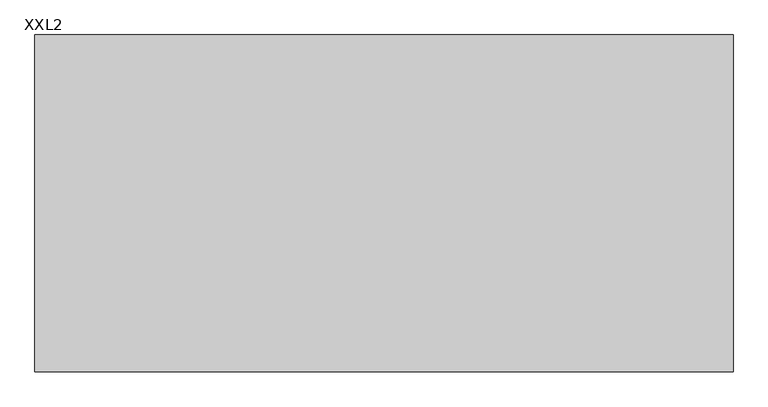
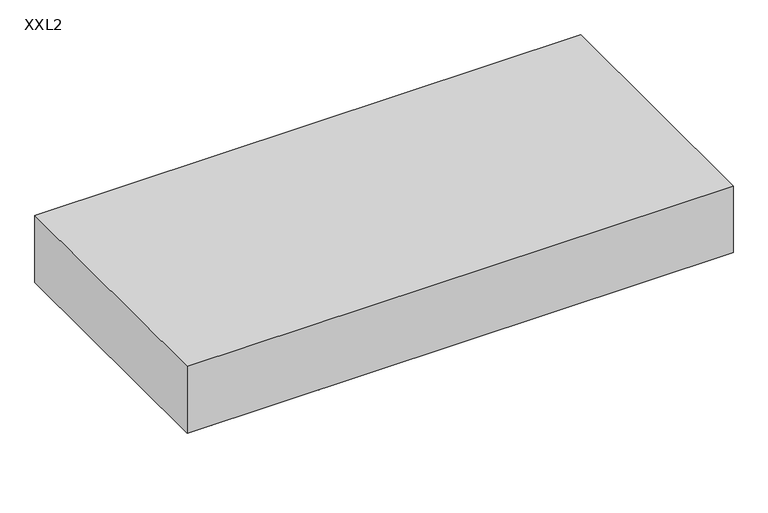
"""IFC4 building model written with IfcOpenShell, lengths in millimetres: proxy geometry, OWA Corpus : XXL2."""

from ifc_helpers import new_model, si_unit, point, frame, frame_2d, origin, place, context, project, spatial, polyline, circle_curve, trimmed, segment, composite_curve, outline, extrude, faceted_brep, source, transform, mapped, element, save
from ifc_brep_helpers import plane_surface, cylinder_surface, revolved_surface, advanced_brep


def xxl2_2bb92154(model_context):
    return source(origin(), model_context, "Body", "SolidModel", [
        advanced_brep(
        [(-891.0, -305.0, 0.0), (-883.2593825, -305.0, 0.0), (-898.7406175, -305.0, 0.0), (-883.2593825, -305.0, 15.0), (-898.7406175, -305.0, 15.0), (-884.1843825, -305.0, 15.0), (-897.8156175, -305.0, 15.0), (-884.1843825, -305.0, 19.0), (-897.8156175, -305.0, 19.0), (-888.9343825, -305.0, 19.0), (-893.0656175, -305.0, 19.0), (-888.9343825, -305.0, 22.546183), (-893.0656175, -305.0, 22.546183), (-891.0, -305.0, 22.546183)],
        [
            (0, 1),
            (1, 2, circle_curve(frame((-891.0, -305.0, 0.0), z_axis=(0.0, 0.0, -1.0), x_axis=(-1.0, 0.0, 0.0)), 7.7406175)),
            (2, 0),
            (2, 1, circle_curve(frame((-891.0, -305.0, 0.0), z_axis=(0.0, 0.0, -1.0), x_axis=(-1.0, 0.0, 0.0)), 7.7406175)),
            (1, 3),
            (3, 4, circle_curve(frame((-891.0, -305.0, 15.0), z_axis=(0.0, 0.0, -1.0), x_axis=(-1.0, 0.0, 0.0)), 7.7406175)),
            (4, 2),
            (4, 3, circle_curve(frame((-891.0, -305.0, 15.0), z_axis=(0.0, 0.0, -1.0), x_axis=(-1.0, 0.0, 0.0)), 7.7406175)),
            (3, 5),
            (5, 6, circle_curve(frame((-891.0, -305.0, 15.0), z_axis=(0.0, 0.0, -1.0), x_axis=(-1.0, 0.0, 0.0)), 6.8156175)),
            (6, 4),
            (6, 5, circle_curve(frame((-891.0, -305.0, 15.0), z_axis=(0.0, 0.0, -1.0), x_axis=(-1.0, 0.0, 0.0)), 6.8156175)),
            (5, 7),
            (7, 8, circle_curve(frame((-891.0, -305.0, 19.0), z_axis=(0.0, 0.0, -1.0), x_axis=(-1.0, 0.0, 0.0)), 6.8156175)),
            (8, 6),
            (8, 7, circle_curve(frame((-891.0, -305.0, 19.0), z_axis=(0.0, 0.0, -1.0), x_axis=(-1.0, 0.0, 0.0)), 6.8156175)),
            (7, 9),
            (9, 10, circle_curve(frame((-891.0, -305.0, 19.0), z_axis=(0.0, 0.0, -1.0), x_axis=(-1.0, 0.0, 0.0)), 2.0656175)),
            (10, 8),
            (10, 9, circle_curve(frame((-891.0, -305.0, 19.0), z_axis=(0.0, 0.0, -1.0), x_axis=(-1.0, 0.0, 0.0)), 2.0656175)),
            (9, 11),
            (11, 12, circle_curve(frame((-891.0, -305.0, 22.546183), z_axis=(0.0, 0.0, -1.0), x_axis=(-1.0, 0.0, 0.0)), 2.0656175)),
            (12, 10),
            (12, 11, circle_curve(frame((-891.0, -305.0, 22.546183), z_axis=(0.0, 0.0, -1.0), x_axis=(-1.0, 0.0, 0.0)), 2.0656175)),
            (11, 13),
            (13, 12),
        ],
        [
            plane_surface(frame((-891.0, -305.0, 0.0), z_axis=(0.0, 0.0, -1.0), x_axis=(-1.0, 0.0, 0.0))),
            cylinder_surface(frame((-891.0, -305.0, -10.0), z_axis=(0.0, 0.0, -1.0), x_axis=(-1.0, 0.0, 0.0)), 7.7406175),
            plane_surface(frame((-891.0, -305.0, 15.0), z_axis=(0.0, 0.0, 1.0), x_axis=(-1.0, 0.0, 0.0))),
            cylinder_surface(frame((-891.0, -305.0, -10.0), z_axis=(0.0, 0.0, -1.0), x_axis=(-1.0, 0.0, 0.0)), 6.8156175),
            plane_surface(frame((-891.0, -305.0, 19.0), z_axis=(0.0, 0.0, 1.0), x_axis=(-1.0, 0.0, 0.0))),
            cylinder_surface(frame((-891.0, -305.0, -10.0), z_axis=(0.0, 0.0, -1.0), x_axis=(-1.0, 0.0, 0.0)), 2.0656175),
            plane_surface(frame((-891.0, -305.0, 22.546183), z_axis=(0.0, 0.0, 1.0), x_axis=(-1.0, 0.0, 0.0))),
        ],
        [
            (0, [[1, 2, 3]]),
            (0, [[-3, 4, -1]]),
            (1, [[5, 6, 7, -2]]),
            (1, [[-7, 8, -5, -4]]),
            (2, [[9, 10, 11, -6]]),
            (2, [[-11, 12, -9, -8]]),
            (3, [[13, 14, 15, -10]]),
            (3, [[-15, 16, -13, -12]]),
            (4, [[17, 18, 19, -14]]),
            (4, [[-19, 20, -17, -16]]),
            (5, [[21, 22, 23, -18]]),
            (5, [[-23, 24, -21, -20]]),
            (6, [[25, 26, -22]]),
            (6, [[-26, -25, -24]]),
        ],
    ),
        advanced_brep(
        [(-888.7615389, -305.0, 428.8211737), (-888.6339453, -305.0, 432.8711737), (-893.3660547, -305.0, 432.8711737), (-893.2384611, -305.0, 428.8211737), (-886.1339453, -305.0, 432.8711737), (-895.8660547, -305.0, 432.8711737), (-886.1339453, -305.0, 458.1211737), (-895.8660547, -305.0, 458.1211737), (-875.1339453, -305.0, 458.1211737), (-906.8660547, -305.0, 458.1211737), (-875.1339453, -305.0, 460.0), (-906.8660547, -305.0, 460.0), (-891.0, -305.0, 460.0), (-891.0, -305.0, 428.8211737)],
        [
            (0, 1),
            (1, 2, circle_curve(frame((-891.0, -305.0, 432.8711737), z_axis=(0.0, 0.0, -1.0), x_axis=(-1.0, 0.0, 0.0)), 2.3660547)),
            (2, 3),
            (3, 0, circle_curve(frame((-891.0, -305.0, 428.8211737), z_axis=(0.0, 0.0, 1.0), x_axis=(-1.0, 0.0, 0.0)), 2.2384611)),
            (2, 1, circle_curve(frame((-891.0, -305.0, 432.8711737), z_axis=(0.0, 0.0, -1.0), x_axis=(-1.0, 0.0, 0.0)), 2.3660547)),
            (0, 3, circle_curve(frame((-891.0, -305.0, 428.8211737), z_axis=(0.0, 0.0, 1.0), x_axis=(-1.0, 0.0, 0.0)), 2.2384611)),
            (1, 4),
            (4, 5, circle_curve(frame((-891.0, -305.0, 432.8711737), z_axis=(0.0, 0.0, -1.0), x_axis=(-1.0, 0.0, 0.0)), 4.8660547)),
            (5, 2),
            (5, 4, circle_curve(frame((-891.0, -305.0, 432.8711737), z_axis=(0.0, 0.0, -1.0), x_axis=(-1.0, 0.0, 0.0)), 4.8660547)),
            (4, 6),
            (6, 7, circle_curve(frame((-891.0, -305.0, 458.1211737), z_axis=(0.0, 0.0, -1.0), x_axis=(-1.0, 0.0, 0.0)), 4.8660547)),
            (7, 5),
            (7, 6, circle_curve(frame((-891.0, -305.0, 458.1211737), z_axis=(0.0, 0.0, -1.0), x_axis=(-1.0, 0.0, 0.0)), 4.8660547)),
            (6, 8),
            (8, 9, circle_curve(frame((-891.0, -305.0, 458.1211737), z_axis=(0.0, 0.0, -1.0), x_axis=(-1.0, 0.0, 0.0)), 15.8660547)),
            (9, 7),
            (9, 8, circle_curve(frame((-891.0, -305.0, 458.1211737), z_axis=(0.0, 0.0, -1.0), x_axis=(-1.0, 0.0, 0.0)), 15.8660547)),
            (8, 10),
            (10, 11, circle_curve(frame((-891.0, -305.0, 460.0), z_axis=(0.0, 0.0, -1.0), x_axis=(-1.0, 0.0, 0.0)), 15.8660547)),
            (11, 9),
            (11, 10, circle_curve(frame((-891.0, -305.0, 460.0), z_axis=(0.0, 0.0, -1.0), x_axis=(-1.0, 0.0, 0.0)), 15.8660547)),
            (10, 12),
            (12, 11),
            (13, 0),
            (3, 13),
        ],
        [
            revolved_surface(polyline([(-893.3660547, -305.0, 432.8711737), (-893.2384611, -305.0, 428.8211737)]), (-891.0, -305.0, 461.8401096), (0.0, 0.0, -1.0)),
            plane_surface(frame((-891.0, -305.0, 432.8711737), z_axis=(0.0, 0.0, -1.0), x_axis=(-1.0, 0.0, 0.0))),
            cylinder_surface(frame((-891.0, -305.0, 461.8401096), z_axis=(0.0, 0.0, -1.0), x_axis=(-1.0, 0.0, 0.0)), 4.8660547),
            plane_surface(frame((-891.0, -305.0, 458.1211737), z_axis=(0.0, 0.0, -1.0), x_axis=(-1.0, 0.0, 0.0))),
            cylinder_surface(frame((-891.0, -305.0, 461.8401096), z_axis=(0.0, 0.0, -1.0), x_axis=(-1.0, 0.0, 0.0)), 15.8660547),
            plane_surface(frame((-891.0, -305.0, 460.0), z_axis=(0.0, 0.0, 1.0), x_axis=(-1.0, 0.0, 0.0))),
            plane_surface(frame((-891.0, -305.0, 428.8211737), z_axis=(0.0, 0.0, -1.0), x_axis=(-1.0, 0.0, 0.0))),
        ],
        [
            (0, [[1, 2, 3, 4]]),
            (0, [[-3, 5, -1, 6]]),
            (1, [[7, 8, 9, -2]]),
            (1, [[-9, 10, -7, -5]]),
            (2, [[11, 12, 13, -8]]),
            (2, [[-13, 14, -11, -10]]),
            (3, [[15, 16, 17, -12]]),
            (3, [[-17, 18, -15, -14]]),
            (4, [[19, 20, 21, -16]]),
            (4, [[-21, 22, -19, -18]]),
            (5, [[23, 24, -20]]),
            (5, [[-24, -23, -22]]),
            (6, [[25, -4, 26]]),
            (6, [[-26, -6, -25]]),
        ],
    ),
        extrude(outline(composite_curve([segment(trimmed(circle_curve(frame_2d((-891.0, -305.0)), 1.0), [point((-892.0, -305.0))], [point((-890.0, -305.0))], False, "CARTESIAN"), True, "CONTINUOUS"), segment(trimmed(circle_curve(frame_2d((-891.0, -305.0)), 1.0), [point((-890.0, -305.0))], [point((-892.0, -305.0))], False, "CARTESIAN"), True, "CONTINUOUS")], self_intersect=False)), frame((0.0, 0.0, 22.546183), z_axis=(0.0, 0.0, 1.0), x_axis=(1.0, 0.0, 0.0)), (0.0, 0.0, 1.0), 406.2749908),
        advanced_brep(
        [(-891.0, 305.0, 0.0), (-898.7406175, 305.0, 0.0), (-883.2593825, 305.0, 0.0), (-898.7406175, 305.0, 15.0), (-883.2593825, 305.0, 15.0), (-897.8156175, 305.0, 15.0), (-884.1843825, 305.0, 15.0), (-897.8156175, 305.0, 19.0), (-884.1843825, 305.0, 19.0), (-893.0656175, 305.0, 19.0), (-888.9343825, 305.0, 19.0), (-893.0656175, 305.0, 22.546183), (-888.9343825, 305.0, 22.546183), (-891.0, 305.0, 22.546183)],
        [
            (0, 1),
            (1, 2, circle_curve(frame((-891.0, 305.0, 0.0), z_axis=(0.0, 0.0, -1.0), x_axis=(-1.0, 0.0, 0.0)), 7.7406175)),
            (2, 0),
            (2, 1, circle_curve(frame((-891.0, 305.0, 0.0), z_axis=(0.0, 0.0, -1.0), x_axis=(-1.0, 0.0, 0.0)), 7.7406175)),
            (1, 3),
            (3, 4, circle_curve(frame((-891.0, 305.0, 15.0), z_axis=(0.0, 0.0, -1.0), x_axis=(-1.0, 0.0, 0.0)), 7.7406175)),
            (4, 2),
            (4, 3, circle_curve(frame((-891.0, 305.0, 15.0), z_axis=(0.0, 0.0, -1.0), x_axis=(-1.0, 0.0, 0.0)), 7.7406175)),
            (3, 5),
            (5, 6, circle_curve(frame((-891.0, 305.0, 15.0), z_axis=(0.0, 0.0, -1.0), x_axis=(-1.0, 0.0, 0.0)), 6.8156175)),
            (6, 4),
            (6, 5, circle_curve(frame((-891.0, 305.0, 15.0), z_axis=(0.0, 0.0, -1.0), x_axis=(-1.0, 0.0, 0.0)), 6.8156175)),
            (5, 7),
            (7, 8, circle_curve(frame((-891.0, 305.0, 19.0), z_axis=(0.0, 0.0, -1.0), x_axis=(-1.0, 0.0, 0.0)), 6.8156175)),
            (8, 6),
            (8, 7, circle_curve(frame((-891.0, 305.0, 19.0), z_axis=(0.0, 0.0, -1.0), x_axis=(-1.0, 0.0, 0.0)), 6.8156175)),
            (7, 9),
            (9, 10, circle_curve(frame((-891.0, 305.0, 19.0), z_axis=(0.0, 0.0, -1.0), x_axis=(-1.0, 0.0, 0.0)), 2.0656175)),
            (10, 8),
            (10, 9, circle_curve(frame((-891.0, 305.0, 19.0), z_axis=(0.0, 0.0, -1.0), x_axis=(-1.0, 0.0, 0.0)), 2.0656175)),
            (9, 11),
            (11, 12, circle_curve(frame((-891.0, 305.0, 22.546183), z_axis=(0.0, 0.0, -1.0), x_axis=(-1.0, 0.0, 0.0)), 2.0656175)),
            (12, 10),
            (12, 11, circle_curve(frame((-891.0, 305.0, 22.546183), z_axis=(0.0, 0.0, -1.0), x_axis=(-1.0, 0.0, 0.0)), 2.0656175)),
            (11, 13),
            (13, 12),
        ],
        [
            plane_surface(frame((-891.0, 305.0, 0.0), z_axis=(0.0, 0.0, -1.0), x_axis=(-1.0, 0.0, 0.0))),
            cylinder_surface(frame((-891.0, 305.0, -10.0), z_axis=(0.0, 0.0, -1.0), x_axis=(-1.0, 0.0, 0.0)), 7.7406175),
            plane_surface(frame((-891.0, 305.0, 15.0), z_axis=(0.0, 0.0, 1.0), x_axis=(-1.0, 0.0, 0.0))),
            cylinder_surface(frame((-891.0, 305.0, -10.0), z_axis=(0.0, 0.0, -1.0), x_axis=(-1.0, 0.0, 0.0)), 6.8156175),
            plane_surface(frame((-891.0, 305.0, 19.0), z_axis=(0.0, 0.0, 1.0), x_axis=(-1.0, 0.0, 0.0))),
            cylinder_surface(frame((-891.0, 305.0, -10.0), z_axis=(0.0, 0.0, -1.0), x_axis=(-1.0, 0.0, 0.0)), 2.0656175),
            plane_surface(frame((-891.0, 305.0, 22.546183), z_axis=(0.0, 0.0, 1.0), x_axis=(-1.0, 0.0, 0.0))),
        ],
        [
            (0, [[1, 2, 3]]),
            (0, [[-3, 4, -1]]),
            (1, [[-2, 5, 6, 7]]),
            (1, [[-4, -7, 8, -5]]),
            (2, [[-6, 9, 10, 11]]),
            (2, [[-8, -11, 12, -9]]),
            (3, [[-10, 13, 14, 15]]),
            (3, [[-12, -15, 16, -13]]),
            (4, [[-14, 17, 18, 19]]),
            (4, [[-16, -19, 20, -17]]),
            (5, [[-18, 21, 22, 23]]),
            (5, [[-20, -23, 24, -21]]),
            (6, [[-22, 25, 26]]),
            (6, [[-24, -26, -25]]),
        ],
    ),
        advanced_brep(
        [(-888.7615389, 305.0, 428.8211737), (-893.2384611, 305.0, 428.8211737), (-893.3660547, 305.0, 432.8711737), (-888.6339453, 305.0, 432.8711737), (-895.8660547, 305.0, 432.8711737), (-886.1339453, 305.0, 432.8711737), (-895.8660547, 305.0, 458.1211737), (-886.1339453, 305.0, 458.1211737), (-906.8660547, 305.0, 458.1211737), (-875.1339453, 305.0, 458.1211737), (-906.8660547, 305.0, 460.0), (-875.1339453, 305.0, 460.0), (-891.0, 305.0, 460.0), (-891.0, 305.0, 428.8211737)],
        [
            (0, 1, circle_curve(frame((-891.0, 305.0, 428.8211737), z_axis=(0.0, 0.0, 1.0), x_axis=(-1.0, 0.0, 0.0)), 2.2384611)),
            (1, 2),
            (2, 3, circle_curve(frame((-891.0, 305.0, 432.8711737), z_axis=(0.0, 0.0, -1.0), x_axis=(-1.0, 0.0, 0.0)), 2.3660547)),
            (3, 0),
            (1, 0, circle_curve(frame((-891.0, 305.0, 428.8211737), z_axis=(0.0, 0.0, 1.0), x_axis=(-1.0, 0.0, 0.0)), 2.2384611)),
            (3, 2, circle_curve(frame((-891.0, 305.0, 432.8711737), z_axis=(0.0, 0.0, -1.0), x_axis=(-1.0, 0.0, 0.0)), 2.3660547)),
            (2, 4),
            (4, 5, circle_curve(frame((-891.0, 305.0, 432.8711737), z_axis=(0.0, 0.0, -1.0), x_axis=(-1.0, 0.0, 0.0)), 4.8660547)),
            (5, 3),
            (5, 4, circle_curve(frame((-891.0, 305.0, 432.8711737), z_axis=(0.0, 0.0, -1.0), x_axis=(-1.0, 0.0, 0.0)), 4.8660547)),
            (4, 6),
            (6, 7, circle_curve(frame((-891.0, 305.0, 458.1211737), z_axis=(0.0, 0.0, -1.0), x_axis=(-1.0, 0.0, 0.0)), 4.8660547)),
            (7, 5),
            (7, 6, circle_curve(frame((-891.0, 305.0, 458.1211737), z_axis=(0.0, 0.0, -1.0), x_axis=(-1.0, 0.0, 0.0)), 4.8660547)),
            (6, 8),
            (8, 9, circle_curve(frame((-891.0, 305.0, 458.1211737), z_axis=(0.0, 0.0, -1.0), x_axis=(-1.0, 0.0, 0.0)), 15.8660547)),
            (9, 7),
            (9, 8, circle_curve(frame((-891.0, 305.0, 458.1211737), z_axis=(0.0, 0.0, -1.0), x_axis=(-1.0, 0.0, 0.0)), 15.8660547)),
            (8, 10),
            (10, 11, circle_curve(frame((-891.0, 305.0, 460.0), z_axis=(0.0, 0.0, -1.0), x_axis=(-1.0, 0.0, 0.0)), 15.8660547)),
            (11, 9),
            (11, 10, circle_curve(frame((-891.0, 305.0, 460.0), z_axis=(0.0, 0.0, -1.0), x_axis=(-1.0, 0.0, 0.0)), 15.8660547)),
            (10, 12),
            (12, 11),
            (13, 1),
            (0, 13),
        ],
        [
            revolved_surface(polyline([(-893.3660547, 305.0, 432.8711737), (-893.2384611, 305.0, 428.8211737)]), (-891.0, 305.0, 461.8401096), (0.0, 0.0, -1.0)),
            plane_surface(frame((-891.0, 305.0, 432.8711737), z_axis=(0.0, 0.0, -1.0), x_axis=(-1.0, 0.0, 0.0))),
            cylinder_surface(frame((-891.0, 305.0, 461.8401096), z_axis=(0.0, 0.0, -1.0), x_axis=(-1.0, 0.0, 0.0)), 4.8660547),
            plane_surface(frame((-891.0, 305.0, 458.1211737), z_axis=(0.0, 0.0, -1.0), x_axis=(-1.0, 0.0, 0.0))),
            cylinder_surface(frame((-891.0, 305.0, 461.8401096), z_axis=(0.0, 0.0, -1.0), x_axis=(-1.0, 0.0, 0.0)), 15.8660547),
            plane_surface(frame((-891.0, 305.0, 460.0), z_axis=(0.0, 0.0, 1.0), x_axis=(-1.0, 0.0, 0.0))),
            plane_surface(frame((-891.0, 305.0, 428.8211737), z_axis=(0.0, 0.0, -1.0), x_axis=(-1.0, 0.0, 0.0))),
        ],
        [
            (0, [[1, 2, 3, 4]]),
            (0, [[5, -4, 6, -2]]),
            (1, [[-3, 7, 8, 9]]),
            (1, [[-6, -9, 10, -7]]),
            (2, [[-8, 11, 12, 13]]),
            (2, [[-10, -13, 14, -11]]),
            (3, [[-12, 15, 16, 17]]),
            (3, [[-14, -17, 18, -15]]),
            (4, [[-16, 19, 20, 21]]),
            (4, [[-18, -21, 22, -19]]),
            (5, [[-20, 23, 24]]),
            (5, [[-22, -24, -23]]),
            (6, [[25, -1, 26]]),
            (6, [[-26, -5, -25]]),
        ],
    ),
        extrude(outline(composite_curve([segment(trimmed(circle_curve(frame_2d((-891.0, 305.0)), 1.0), [point((-892.0, 305.0))], [point((-890.0, 305.0))], False, "CARTESIAN"), True, "CONTINUOUS"), segment(trimmed(circle_curve(frame_2d((-891.0, 305.0)), 1.0), [point((-890.0, 305.0))], [point((-892.0, 305.0))], False, "CARTESIAN"), True, "CONTINUOUS")], self_intersect=False)), frame((0.0, 0.0, 22.546183), z_axis=(0.0, 0.0, 1.0), x_axis=(1.0, 0.0, 0.0)), (0.0, 0.0, 1.0), 406.2749908),
        advanced_brep(
        [(-1348.5, -305.0, 0.0), (-1340.7593825, -305.0, 0.0), (-1356.2406175, -305.0, 0.0), (-1340.7593825, -305.0, 15.0), (-1356.2406175, -305.0, 15.0), (-1341.6843825, -305.0, 15.0), (-1355.3156175, -305.0, 15.0), (-1341.6843825, -305.0, 19.0), (-1355.3156175, -305.0, 19.0), (-1346.4343825, -305.0, 19.0), (-1350.5656175, -305.0, 19.0), (-1346.4343825, -305.0, 22.546183), (-1350.5656175, -305.0, 22.546183), (-1348.5, -305.0, 22.546183)],
        [
            (0, 1),
            (1, 2, circle_curve(frame((-1348.5, -305.0, 0.0), z_axis=(0.0, 0.0, -1.0), x_axis=(-1.0, 0.0, 0.0)), 7.7406175)),
            (2, 0),
            (2, 1, circle_curve(frame((-1348.5, -305.0, 0.0), z_axis=(0.0, 0.0, -1.0), x_axis=(-1.0, 0.0, 0.0)), 7.7406175)),
            (1, 3),
            (3, 4, circle_curve(frame((-1348.5, -305.0, 15.0), z_axis=(0.0, 0.0, -1.0), x_axis=(-1.0, 0.0, 0.0)), 7.7406175)),
            (4, 2),
            (4, 3, circle_curve(frame((-1348.5, -305.0, 15.0), z_axis=(0.0, 0.0, -1.0), x_axis=(-1.0, 0.0, 0.0)), 7.7406175)),
            (3, 5),
            (5, 6, circle_curve(frame((-1348.5, -305.0, 15.0), z_axis=(0.0, 0.0, -1.0), x_axis=(-1.0, 0.0, 0.0)), 6.8156175)),
            (6, 4),
            (6, 5, circle_curve(frame((-1348.5, -305.0, 15.0), z_axis=(0.0, 0.0, -1.0), x_axis=(-1.0, 0.0, 0.0)), 6.8156175)),
            (5, 7),
            (7, 8, circle_curve(frame((-1348.5, -305.0, 19.0), z_axis=(0.0, 0.0, -1.0), x_axis=(-1.0, 0.0, 0.0)), 6.8156175)),
            (8, 6),
            (8, 7, circle_curve(frame((-1348.5, -305.0, 19.0), z_axis=(0.0, 0.0, -1.0), x_axis=(-1.0, 0.0, 0.0)), 6.8156175)),
            (7, 9),
            (9, 10, circle_curve(frame((-1348.5, -305.0, 19.0), z_axis=(0.0, 0.0, -1.0), x_axis=(-1.0, 0.0, 0.0)), 2.0656175)),
            (10, 8),
            (10, 9, circle_curve(frame((-1348.5, -305.0, 19.0), z_axis=(0.0, 0.0, -1.0), x_axis=(-1.0, 0.0, 0.0)), 2.0656175)),
            (9, 11),
            (11, 12, circle_curve(frame((-1348.5, -305.0, 22.546183), z_axis=(0.0, 0.0, -1.0), x_axis=(-1.0, 0.0, 0.0)), 2.0656175)),
            (12, 10),
            (12, 11, circle_curve(frame((-1348.5, -305.0, 22.546183), z_axis=(0.0, 0.0, -1.0), x_axis=(-1.0, 0.0, 0.0)), 2.0656175)),
            (11, 13),
            (13, 12),
        ],
        [
            plane_surface(frame((-1348.5, -305.0, 0.0), z_axis=(0.0, 0.0, -1.0), x_axis=(-1.0, 0.0, 0.0))),
            cylinder_surface(frame((-1348.5, -305.0, -10.0), z_axis=(0.0, 0.0, -1.0), x_axis=(-1.0, 0.0, 0.0)), 7.7406175),
            plane_surface(frame((-1348.5, -305.0, 15.0), z_axis=(0.0, 0.0, 1.0), x_axis=(-1.0, 0.0, 0.0))),
            cylinder_surface(frame((-1348.5, -305.0, -10.0), z_axis=(0.0, 0.0, -1.0), x_axis=(-1.0, 0.0, 0.0)), 6.8156175),
            plane_surface(frame((-1348.5, -305.0, 19.0), z_axis=(0.0, 0.0, 1.0), x_axis=(-1.0, 0.0, 0.0))),
            cylinder_surface(frame((-1348.5, -305.0, -10.0), z_axis=(0.0, 0.0, -1.0), x_axis=(-1.0, 0.0, 0.0)), 2.0656175),
            plane_surface(frame((-1348.5, -305.0, 22.546183), z_axis=(0.0, 0.0, 1.0), x_axis=(-1.0, 0.0, 0.0))),
        ],
        [
            (0, [[1, 2, 3]]),
            (0, [[-3, 4, -1]]),
            (1, [[5, 6, 7, -2]]),
            (1, [[-7, 8, -5, -4]]),
            (2, [[9, 10, 11, -6]]),
            (2, [[-11, 12, -9, -8]]),
            (3, [[13, 14, 15, -10]]),
            (3, [[-15, 16, -13, -12]]),
            (4, [[17, 18, 19, -14]]),
            (4, [[-19, 20, -17, -16]]),
            (5, [[21, 22, 23, -18]]),
            (5, [[-23, 24, -21, -20]]),
            (6, [[25, 26, -22]]),
            (6, [[-26, -25, -24]]),
        ],
    ),
        advanced_brep(
        [(-1346.2615389, -305.0, 428.8211737), (-1346.1339453, -305.0, 432.8711737), (-1350.8660547, -305.0, 432.8711737), (-1350.7384611, -305.0, 428.8211737), (-1343.6339453, -305.0, 432.8711737), (-1353.3660547, -305.0, 432.8711737), (-1343.6339453, -305.0, 458.1211737), (-1353.3660547, -305.0, 458.1211737), (-1332.6339453, -305.0, 458.1211737), (-1364.3660547, -305.0, 458.1211737), (-1332.6339453, -305.0, 460.0), (-1364.3660547, -305.0, 460.0), (-1348.5, -305.0, 460.0), (-1348.5, -305.0, 428.8211737)],
        [
            (0, 1),
            (1, 2, circle_curve(frame((-1348.5, -305.0, 432.8711737), z_axis=(0.0, 0.0, -1.0), x_axis=(-1.0, 0.0, 0.0)), 2.3660547)),
            (2, 3),
            (3, 0, circle_curve(frame((-1348.5, -305.0, 428.8211737), z_axis=(0.0, 0.0, 1.0), x_axis=(-1.0, 0.0, 0.0)), 2.2384611)),
            (2, 1, circle_curve(frame((-1348.5, -305.0, 432.8711737), z_axis=(0.0, 0.0, -1.0), x_axis=(-1.0, 0.0, 0.0)), 2.3660547)),
            (0, 3, circle_curve(frame((-1348.5, -305.0, 428.8211737), z_axis=(0.0, 0.0, 1.0), x_axis=(-1.0, 0.0, 0.0)), 2.2384611)),
            (1, 4),
            (4, 5, circle_curve(frame((-1348.5, -305.0, 432.8711737), z_axis=(0.0, 0.0, -1.0), x_axis=(-1.0, 0.0, 0.0)), 4.8660547)),
            (5, 2),
            (5, 4, circle_curve(frame((-1348.5, -305.0, 432.8711737), z_axis=(0.0, 0.0, -1.0), x_axis=(-1.0, 0.0, 0.0)), 4.8660547)),
            (4, 6),
            (6, 7, circle_curve(frame((-1348.5, -305.0, 458.1211737), z_axis=(0.0, 0.0, -1.0), x_axis=(-1.0, 0.0, 0.0)), 4.8660547)),
            (7, 5),
            (7, 6, circle_curve(frame((-1348.5, -305.0, 458.1211737), z_axis=(0.0, 0.0, -1.0), x_axis=(-1.0, 0.0, 0.0)), 4.8660547)),
            (6, 8),
            (8, 9, circle_curve(frame((-1348.5, -305.0, 458.1211737), z_axis=(0.0, 0.0, -1.0), x_axis=(-1.0, 0.0, 0.0)), 15.8660547)),
            (9, 7),
            (9, 8, circle_curve(frame((-1348.5, -305.0, 458.1211737), z_axis=(0.0, 0.0, -1.0), x_axis=(-1.0, 0.0, 0.0)), 15.8660547)),
            (8, 10),
            (10, 11, circle_curve(frame((-1348.5, -305.0, 460.0), z_axis=(0.0, 0.0, -1.0), x_axis=(-1.0, 0.0, 0.0)), 15.8660547)),
            (11, 9),
            (11, 10, circle_curve(frame((-1348.5, -305.0, 460.0), z_axis=(0.0, 0.0, -1.0), x_axis=(-1.0, 0.0, 0.0)), 15.8660547)),
            (10, 12),
            (12, 11),
            (13, 0),
            (3, 13),
        ],
        [
            revolved_surface(polyline([(-1350.8660547, -305.0, 432.8711737), (-1350.7384611, -305.0, 428.8211737)]), (-1348.5, -305.0, 461.8401096), (0.0, 0.0, -1.0)),
            plane_surface(frame((-1348.5, -305.0, 432.8711737), z_axis=(0.0, 0.0, -1.0), x_axis=(-1.0, 0.0, 0.0))),
            cylinder_surface(frame((-1348.5, -305.0, 461.8401096), z_axis=(0.0, 0.0, -1.0), x_axis=(-1.0, 0.0, 0.0)), 4.8660547),
            plane_surface(frame((-1348.5, -305.0, 458.1211737), z_axis=(0.0, 0.0, -1.0), x_axis=(-1.0, 0.0, 0.0))),
            cylinder_surface(frame((-1348.5, -305.0, 461.8401096), z_axis=(0.0, 0.0, -1.0), x_axis=(-1.0, 0.0, 0.0)), 15.8660547),
            plane_surface(frame((-1348.5, -305.0, 460.0), z_axis=(0.0, 0.0, 1.0), x_axis=(-1.0, 0.0, 0.0))),
            plane_surface(frame((-1348.5, -305.0, 428.8211737), z_axis=(0.0, 0.0, -1.0), x_axis=(-1.0, 0.0, 0.0))),
        ],
        [
            (0, [[1, 2, 3, 4]]),
            (0, [[-3, 5, -1, 6]]),
            (1, [[7, 8, 9, -2]]),
            (1, [[-9, 10, -7, -5]]),
            (2, [[11, 12, 13, -8]]),
            (2, [[-13, 14, -11, -10]]),
            (3, [[15, 16, 17, -12]]),
            (3, [[-17, 18, -15, -14]]),
            (4, [[19, 20, 21, -16]]),
            (4, [[-21, 22, -19, -18]]),
            (5, [[23, 24, -20]]),
            (5, [[-24, -23, -22]]),
            (6, [[25, -4, 26]]),
            (6, [[-26, -6, -25]]),
        ],
    ),
        extrude(outline(composite_curve([segment(trimmed(circle_curve(frame_2d((-1348.5, -305.0)), 1.0), [point((-1349.5, -305.0))], [point((-1347.5, -305.0))], False, "CARTESIAN"), True, "CONTINUOUS"), segment(trimmed(circle_curve(frame_2d((-1348.5, -305.0)), 1.0), [point((-1347.5, -305.0))], [point((-1349.5, -305.0))], False, "CARTESIAN"), True, "CONTINUOUS")], self_intersect=False)), frame((0.0, 0.0, 22.546183), z_axis=(0.0, 0.0, 1.0), x_axis=(1.0, 0.0, 0.0)), (0.0, 0.0, 1.0), 406.2749908),
        advanced_brep(
        [(-1348.5, 305.0, 0.0), (-1356.2406175, 305.0, 0.0), (-1340.7593825, 305.0, 0.0), (-1356.2406175, 305.0, 15.0), (-1340.7593825, 305.0, 15.0), (-1355.3156175, 305.0, 15.0), (-1341.6843825, 305.0, 15.0), (-1355.3156175, 305.0, 19.0), (-1341.6843825, 305.0, 19.0), (-1350.5656175, 305.0, 19.0), (-1346.4343825, 305.0, 19.0), (-1350.5656175, 305.0, 22.546183), (-1346.4343825, 305.0, 22.546183), (-1348.5, 305.0, 22.546183)],
        [
            (0, 1),
            (1, 2, circle_curve(frame((-1348.5, 305.0, 0.0), z_axis=(0.0, 0.0, -1.0), x_axis=(-1.0, 0.0, 0.0)), 7.7406175)),
            (2, 0),
            (2, 1, circle_curve(frame((-1348.5, 305.0, 0.0), z_axis=(0.0, 0.0, -1.0), x_axis=(-1.0, 0.0, 0.0)), 7.7406175)),
            (1, 3),
            (3, 4, circle_curve(frame((-1348.5, 305.0, 15.0), z_axis=(0.0, 0.0, -1.0), x_axis=(-1.0, 0.0, 0.0)), 7.7406175)),
            (4, 2),
            (4, 3, circle_curve(frame((-1348.5, 305.0, 15.0), z_axis=(0.0, 0.0, -1.0), x_axis=(-1.0, 0.0, 0.0)), 7.7406175)),
            (3, 5),
            (5, 6, circle_curve(frame((-1348.5, 305.0, 15.0), z_axis=(0.0, 0.0, -1.0), x_axis=(-1.0, 0.0, 0.0)), 6.8156175)),
            (6, 4),
            (6, 5, circle_curve(frame((-1348.5, 305.0, 15.0), z_axis=(0.0, 0.0, -1.0), x_axis=(-1.0, 0.0, 0.0)), 6.8156175)),
            (5, 7),
            (7, 8, circle_curve(frame((-1348.5, 305.0, 19.0), z_axis=(0.0, 0.0, -1.0), x_axis=(-1.0, 0.0, 0.0)), 6.8156175)),
            (8, 6),
            (8, 7, circle_curve(frame((-1348.5, 305.0, 19.0), z_axis=(0.0, 0.0, -1.0), x_axis=(-1.0, 0.0, 0.0)), 6.8156175)),
            (7, 9),
            (9, 10, circle_curve(frame((-1348.5, 305.0, 19.0), z_axis=(0.0, 0.0, -1.0), x_axis=(-1.0, 0.0, 0.0)), 2.0656175)),
            (10, 8),
            (10, 9, circle_curve(frame((-1348.5, 305.0, 19.0), z_axis=(0.0, 0.0, -1.0), x_axis=(-1.0, 0.0, 0.0)), 2.0656175)),
            (9, 11),
            (11, 12, circle_curve(frame((-1348.5, 305.0, 22.546183), z_axis=(0.0, 0.0, -1.0), x_axis=(-1.0, 0.0, 0.0)), 2.0656175)),
            (12, 10),
            (12, 11, circle_curve(frame((-1348.5, 305.0, 22.546183), z_axis=(0.0, 0.0, -1.0), x_axis=(-1.0, 0.0, 0.0)), 2.0656175)),
            (11, 13),
            (13, 12),
        ],
        [
            plane_surface(frame((-1348.5, 305.0, 0.0), z_axis=(0.0, 0.0, -1.0), x_axis=(-1.0, 0.0, 0.0))),
            cylinder_surface(frame((-1348.5, 305.0, -10.0), z_axis=(0.0, 0.0, -1.0), x_axis=(-1.0, 0.0, 0.0)), 7.7406175),
            plane_surface(frame((-1348.5, 305.0, 15.0), z_axis=(0.0, 0.0, 1.0), x_axis=(-1.0, 0.0, 0.0))),
            cylinder_surface(frame((-1348.5, 305.0, -10.0), z_axis=(0.0, 0.0, -1.0), x_axis=(-1.0, 0.0, 0.0)), 6.8156175),
            plane_surface(frame((-1348.5, 305.0, 19.0), z_axis=(0.0, 0.0, 1.0), x_axis=(-1.0, 0.0, 0.0))),
            cylinder_surface(frame((-1348.5, 305.0, -10.0), z_axis=(0.0, 0.0, -1.0), x_axis=(-1.0, 0.0, 0.0)), 2.0656175),
            plane_surface(frame((-1348.5, 305.0, 22.546183), z_axis=(0.0, 0.0, 1.0), x_axis=(-1.0, 0.0, 0.0))),
        ],
        [
            (0, [[1, 2, 3]]),
            (0, [[-3, 4, -1]]),
            (1, [[-2, 5, 6, 7]]),
            (1, [[-4, -7, 8, -5]]),
            (2, [[-6, 9, 10, 11]]),
            (2, [[-8, -11, 12, -9]]),
            (3, [[-10, 13, 14, 15]]),
            (3, [[-12, -15, 16, -13]]),
            (4, [[-14, 17, 18, 19]]),
            (4, [[-16, -19, 20, -17]]),
            (5, [[-18, 21, 22, 23]]),
            (5, [[-20, -23, 24, -21]]),
            (6, [[-22, 25, 26]]),
            (6, [[-24, -26, -25]]),
        ],
    ),
        advanced_brep(
        [(-1346.2615389, 305.0, 428.8211737), (-1350.7384611, 305.0, 428.8211737), (-1350.8660547, 305.0, 432.8711737), (-1346.1339453, 305.0, 432.8711737), (-1353.3660547, 305.0, 432.8711737), (-1343.6339453, 305.0, 432.8711737), (-1353.3660547, 305.0, 458.1211737), (-1343.6339453, 305.0, 458.1211737), (-1364.3660547, 305.0, 458.1211737), (-1332.6339453, 305.0, 458.1211737), (-1364.3660547, 305.0, 460.0), (-1332.6339453, 305.0, 460.0), (-1348.5, 305.0, 460.0), (-1348.5, 305.0, 428.8211737)],
        [
            (0, 1, circle_curve(frame((-1348.5, 305.0, 428.8211737), z_axis=(0.0, 0.0, 1.0), x_axis=(-1.0, 0.0, 0.0)), 2.2384611)),
            (1, 2),
            (2, 3, circle_curve(frame((-1348.5, 305.0, 432.8711737), z_axis=(0.0, 0.0, -1.0), x_axis=(-1.0, 0.0, 0.0)), 2.3660547)),
            (3, 0),
            (1, 0, circle_curve(frame((-1348.5, 305.0, 428.8211737), z_axis=(0.0, 0.0, 1.0), x_axis=(-1.0, 0.0, 0.0)), 2.2384611)),
            (3, 2, circle_curve(frame((-1348.5, 305.0, 432.8711737), z_axis=(0.0, 0.0, -1.0), x_axis=(-1.0, 0.0, 0.0)), 2.3660547)),
            (2, 4),
            (4, 5, circle_curve(frame((-1348.5, 305.0, 432.8711737), z_axis=(0.0, 0.0, -1.0), x_axis=(-1.0, 0.0, 0.0)), 4.8660547)),
            (5, 3),
            (5, 4, circle_curve(frame((-1348.5, 305.0, 432.8711737), z_axis=(0.0, 0.0, -1.0), x_axis=(-1.0, 0.0, 0.0)), 4.8660547)),
            (4, 6),
            (6, 7, circle_curve(frame((-1348.5, 305.0, 458.1211737), z_axis=(0.0, 0.0, -1.0), x_axis=(-1.0, 0.0, 0.0)), 4.8660547)),
            (7, 5),
            (7, 6, circle_curve(frame((-1348.5, 305.0, 458.1211737), z_axis=(0.0, 0.0, -1.0), x_axis=(-1.0, 0.0, 0.0)), 4.8660547)),
            (6, 8),
            (8, 9, circle_curve(frame((-1348.5, 305.0, 458.1211737), z_axis=(0.0, 0.0, -1.0), x_axis=(-1.0, 0.0, 0.0)), 15.8660547)),
            (9, 7),
            (9, 8, circle_curve(frame((-1348.5, 305.0, 458.1211737), z_axis=(0.0, 0.0, -1.0), x_axis=(-1.0, 0.0, 0.0)), 15.8660547)),
            (8, 10),
            (10, 11, circle_curve(frame((-1348.5, 305.0, 460.0), z_axis=(0.0, 0.0, -1.0), x_axis=(-1.0, 0.0, 0.0)), 15.8660547)),
            (11, 9),
            (11, 10, circle_curve(frame((-1348.5, 305.0, 460.0), z_axis=(0.0, 0.0, -1.0), x_axis=(-1.0, 0.0, 0.0)), 15.8660547)),
            (10, 12),
            (12, 11),
            (13, 1),
            (0, 13),
        ],
        [
            revolved_surface(polyline([(-1350.8660547, 305.0, 432.8711737), (-1350.7384611, 305.0, 428.8211737)]), (-1348.5, 305.0, 461.8401096), (0.0, 0.0, -1.0)),
            plane_surface(frame((-1348.5, 305.0, 432.8711737), z_axis=(0.0, 0.0, -1.0), x_axis=(-1.0, 0.0, 0.0))),
            cylinder_surface(frame((-1348.5, 305.0, 461.8401096), z_axis=(0.0, 0.0, -1.0), x_axis=(-1.0, 0.0, 0.0)), 4.8660547),
            plane_surface(frame((-1348.5, 305.0, 458.1211737), z_axis=(0.0, 0.0, -1.0), x_axis=(-1.0, 0.0, 0.0))),
            cylinder_surface(frame((-1348.5, 305.0, 461.8401096), z_axis=(0.0, 0.0, -1.0), x_axis=(-1.0, 0.0, 0.0)), 15.8660547),
            plane_surface(frame((-1348.5, 305.0, 460.0), z_axis=(0.0, 0.0, 1.0), x_axis=(-1.0, 0.0, 0.0))),
            plane_surface(frame((-1348.5, 305.0, 428.8211737), z_axis=(0.0, 0.0, -1.0), x_axis=(-1.0, 0.0, 0.0))),
        ],
        [
            (0, [[1, 2, 3, 4]]),
            (0, [[5, -4, 6, -2]]),
            (1, [[-3, 7, 8, 9]]),
            (1, [[-6, -9, 10, -7]]),
            (2, [[-8, 11, 12, 13]]),
            (2, [[-10, -13, 14, -11]]),
            (3, [[-12, 15, 16, 17]]),
            (3, [[-14, -17, 18, -15]]),
            (4, [[-16, 19, 20, 21]]),
            (4, [[-18, -21, 22, -19]]),
            (5, [[-20, 23, 24]]),
            (5, [[-22, -24, -23]]),
            (6, [[25, -1, 26]]),
            (6, [[-26, -5, -25]]),
        ],
    ),
        extrude(outline(composite_curve([segment(trimmed(circle_curve(frame_2d((-1348.5, 305.0)), 1.0), [point((-1349.5, 305.0))], [point((-1347.5, 305.0))], False, "CARTESIAN"), True, "CONTINUOUS"), segment(trimmed(circle_curve(frame_2d((-1348.5, 305.0)), 1.0), [point((-1347.5, 305.0))], [point((-1349.5, 305.0))], False, "CARTESIAN"), True, "CONTINUOUS")], self_intersect=False)), frame((0.0, 0.0, 22.546183), z_axis=(0.0, 0.0, 1.0), x_axis=(1.0, 0.0, 0.0)), (0.0, 0.0, 1.0), 406.2749908),
        faceted_brep([(726.5, 560.0, 500.0), (-1593.5, 560.0, 500.0), (-1593.5, -560.0, 500.0), (726.5, -560.0, 500.0), (686.5, 520.0, 460.0), (686.5, -520.0, 460.0), (-1553.5, -520.0, 460.0), (-1553.5, 520.0, 460.0), (726.5, 560.0, 200.0), (-1593.5, 560.0, 200.0), (-1593.5, -560.0, 200.0), (726.5, -560.0, 200.0), (686.5, 520.0, 200.0), (-1553.5, 520.0, 200.0), (-1553.5, -520.0, 200.0), (686.5, -520.0, 200.0)], [[[0, 1, 2, 3]], [[4, 5, 6, 7]], [[1, 0, 8, 9]], [[2, 1, 9, 10]], [[3, 2, 10, 11]], [[8, 0, 3, 11]], [[8, 11, 10, 9], [12, 13, 14, 15]], [[12, 15, 5, 4]], [[15, 14, 6, 5]], [[14, 13, 7, 6]], [[13, 12, 4, 7]]]),
    ])


if __name__ == "__main__":
    model = new_model("IFC4")
    model_context = context("Model", 3, world=origin())
    ifc_project = project(units=[si_unit("LENGTHUNIT", "METRE", prefix="MILLI")], contexts=[model_context])
    site = spatial("IfcSite", under=ifc_project)
    building = spatial("IfcBuilding", under=site)
    placement = place(None, origin())
    xxl2_shape = xxl2_2bb92154(model_context)
    element("IfcBuildingElementProxy", 1, Name="OWA Corpus : XXL2", ObjectType="OWA Corpus : XXL2", at=placement, inside=building, context=model_context, shape_type="MappedRepresentation", body=[
        mapped(xxl2_shape, transform((0.0, 0.0, 0.0), x_axis=(1.0, 0.0, 0.0), y_axis=(0.0, 1.0, 0.0), z_axis=(0.0, 0.0, 1.0))),
    ])
    save(model, "model.ifc")
